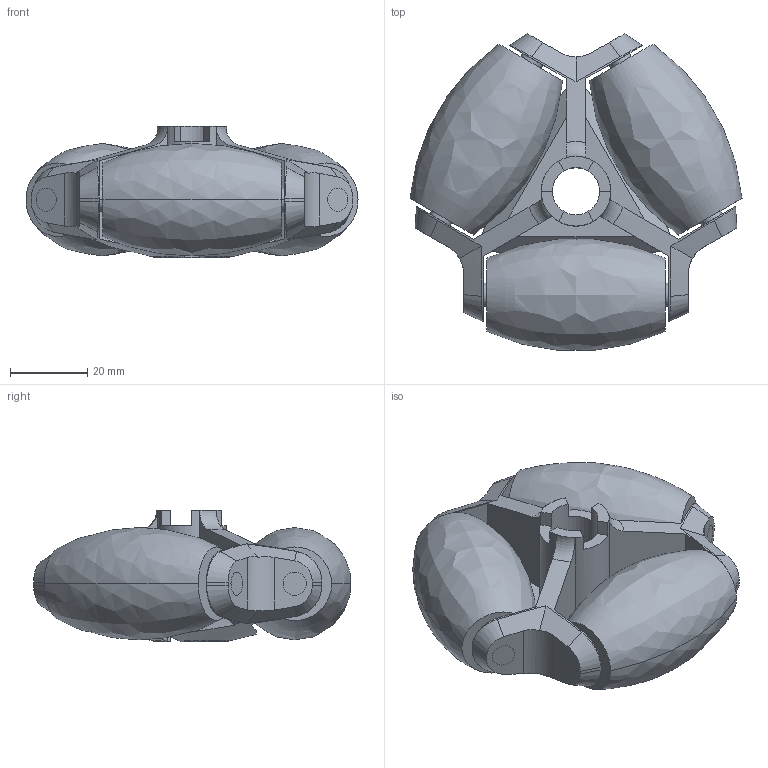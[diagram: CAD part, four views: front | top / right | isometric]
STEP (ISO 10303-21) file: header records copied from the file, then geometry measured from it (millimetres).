
FILE_DESCRIPTION((''),'2;1');
FILE_NAME('OW80_ASM','2013-11-22T',('pablo'),(''),'PRO/ENGINEER BY PARAMETRIC TECHNOLOGY CORPORATION, 2009440','PRO/ENGINEER BY PARAMETRIC TECHNOLOGY CORPORATION, 2009440','');
FILE_SCHEMA(('CONFIG_CONTROL_DESIGN'));
Length unit declared in the file: millimetre
Products named in the file (3): OW80; OW80ROLLER; OW80_ASM
Assembly tree (4 placements, depth 2):
  OW80_ASM
    OW80
    OW80ROLLER  x3
Bounding box: 85.78 x 81.81 x 34 mm (x, y, z)
Volume: 96083.7 mm3; surface area: 26477.4 mm2
Topology: 4 solids, 4 shells, 949 faces, 2673 edges, 1745 vertices
Faces by surface type: plane 837, bspline 42, cylinder 37, cone 30, torus 3
Entity records: 31834 total; most frequent: CARTESIAN_POINT 9416, ORIENTED_EDGE 5274, DIRECTION 3661, EDGE_CURVE 2637, VERTEX_POINT 1721, VECTOR 1643, LINE 1643, AXIS2_PLACEMENT_3D 1009
